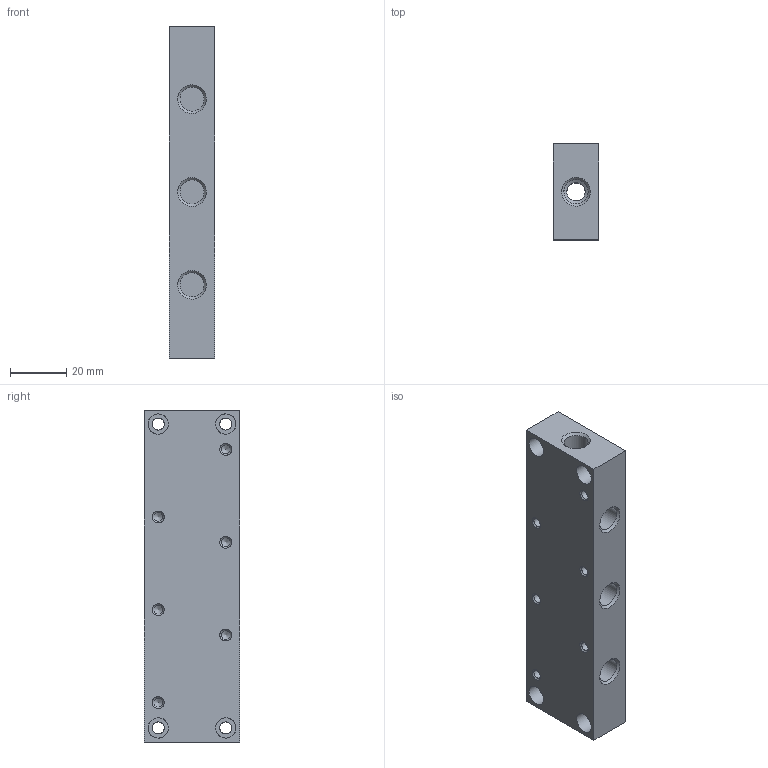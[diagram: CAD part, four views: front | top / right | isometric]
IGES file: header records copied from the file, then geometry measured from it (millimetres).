
Global section: file name: 300_08_03; native system: Autodesk Inventor 2014; preprocessor: unknown; author: A. Manieri; organization: Pneumax S.p.A.; date: 20161005.080809; units: millimetre
Bounding box: 16 x 34 x 118 mm (x, y, z)
Volume: 55790.3 mm3; surface area: 17648.3 mm2
Topology: 1 solids, 1 shells, 52 faces, 150 edges, 107 vertices
Faces by surface type: bspline 52
